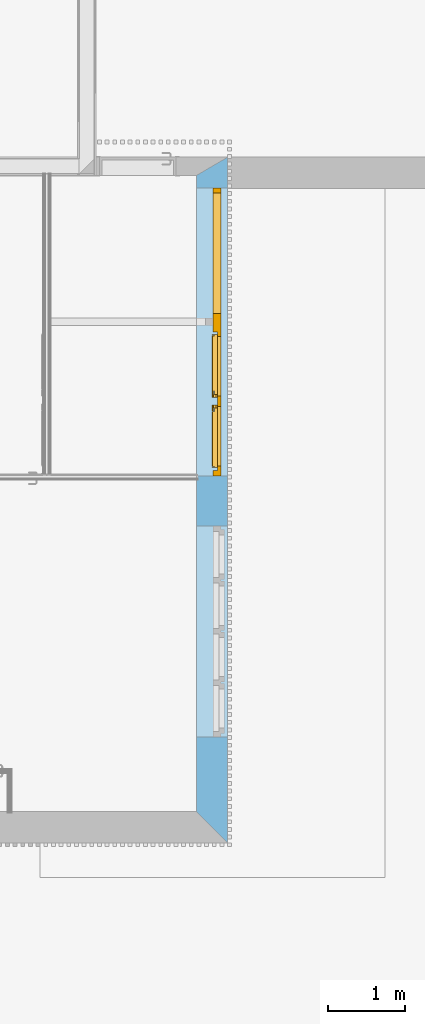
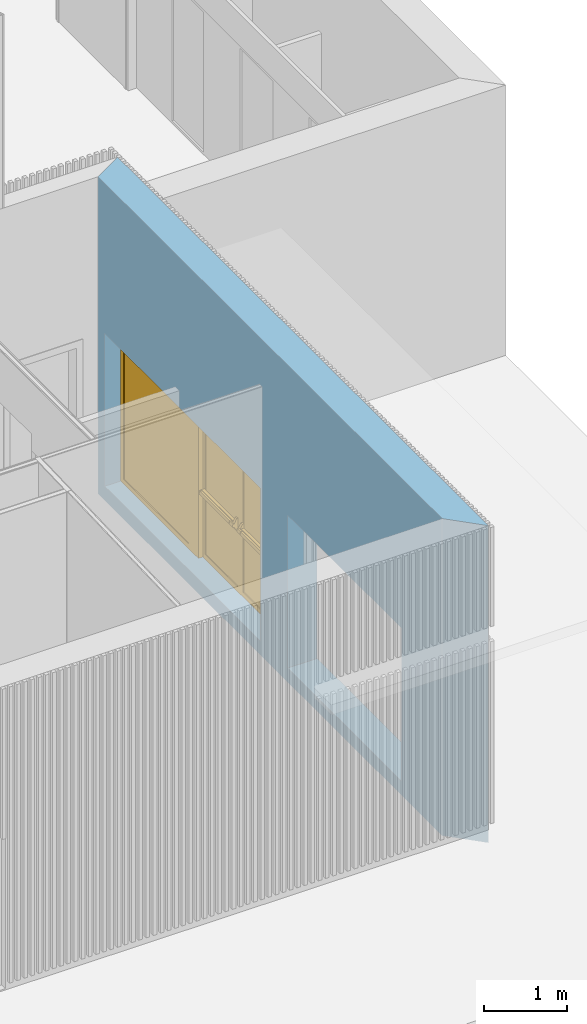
# One storey, part 11 of 34: 1 door, 2 openings, plus 1 element that does not belong to this part.
"""IFC2X3 building model written with IfcOpenShell, lengths in metres."""

from ifc_helpers import new_model, entity, si_unit, converted_unit, derived_unit, money_unit, direction, frame, origin_with_axes, origin_2d_with_axis, place, context, subcontext, project, spatial, polyline, rectangle, outline, extrude, open_shell, faceted_brep, surface_model, material, layer, layer_set, layer_usage, type_object, element, fill, save


model = new_model("IFC2X3")

# Units and contexts
model_context = context("Model", 3, precision=1e-05, world=origin_with_axes(), true_north=direction((0.0, 1.0)))
body_context = subcontext(model_context, "Body", "Model", "MODEL_VIEW")
ifc_project = project(units=[si_unit("LENGTHUNIT", "METRE"), si_unit("AREAUNIT", "SQUARE_METRE"), si_unit("VOLUMEUNIT", "CUBIC_METRE"), converted_unit("PLANEANGLEUNIT", "DEGREE", entity("IfcPlaneAngleMeasure", 0.0174532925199), si_unit("PLANEANGLEUNIT", "RADIAN"), dimensions=[0, 0, 0, 0, 0, 0, 0]), money_unit("CHF"), converted_unit("TIMEUNIT", "Year", entity("IfcTimeMeasure", 31556926.0), si_unit("TIMEUNIT", "SECOND"), dimensions=[0, 0, 1, 0, 0, 0, 0]), si_unit("MASSUNIT", "GRAM", prefix="KILO"), si_unit("THERMODYNAMICTEMPERATUREUNIT", "DEGREE_CELSIUS"), si_unit("LUMINOUSINTENSITYUNIT", "LUMEN"), si_unit("ENERGYUNIT", "JOULE", prefix="MEGA"), derived_unit("THERMALCONDUCTANCEUNIT", [(si_unit("POWERUNIT", "WATT"), 1), (si_unit("LENGTHUNIT", "METRE"), -1), (si_unit("THERMODYNAMICTEMPERATUREUNIT", "KELVIN"), -1)]), derived_unit("SPECIFICHEATCAPACITYUNIT", [(si_unit("ENERGYUNIT", "JOULE"), 1), (si_unit("MASSUNIT", "GRAM", prefix="KILO"), -1), (si_unit("THERMODYNAMICTEMPERATUREUNIT", "KELVIN"), -1)]), derived_unit("MASSDENSITYUNIT", [(si_unit("MASSUNIT", "GRAM", prefix="KILO"), 1), (si_unit("VOLUMEUNIT", "CUBIC_METRE"), -1)])], contexts=[model_context])

# Site, building, storey
site_placement = place(None, origin_with_axes())
site = spatial("IfcSite", under=ifc_project, at=site_placement, Name="Site", CompositionType="ELEMENT")
building_placement = place(site_placement, origin_with_axes())
building = spatial("IfcBuilding", under=site, at=building_placement, Name="Bâtiment", CompositionType="ELEMENT")
storey_placement = place(building_placement, origin_with_axes())
storey = spatial("IfcBuildingStorey", under=building, at=storey_placement, Name="Rez-de-chaussée", CompositionType="ELEMENT", Elevation=0.0)

# Wall, openings, door
ifc_material_1 = material(Name="Finition int - Enduit minéral")
ifc_layer_1 = layer(ifc_material_1, 0.01, ventilated="UNKNOWN")
ifc_material_2 = material(Name="Isolation - Fibres de bois")
ifc_layer_2 = layer(ifc_material_2, 0.18, ventilated="UNKNOWN")
ifc_material_3 = material(Name="Béton armé (Coulé)")
ifc_layer_3 = layer(ifc_material_3, 0.2, ventilated="UNKNOWN")
ifc_material_4 = material(Name="Finition int - Enduit plâtre")
ifc_layer_4 = layer(ifc_material_4, 0.02, ventilated="UNKNOWN")
ifc_layer_set = layer_set([ifc_layer_1, ifc_layer_2, ifc_layer_3, ifc_layer_4], Name="Mur 20cm + iso 18 + enduit")
ifc_layer_usage = layer_usage(ifc_layer_set, "AXIS2", "NEGATIVE", 0.29)
wall_type = type_object("IfcWallType", Name="Mur 20cm + iso 18 + enduit  410", PredefinedType="NOTDEFINED")
wall_placement = place(storey_placement, frame((33.7494697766, 15.07, -0.21), z_axis=(0.0, 0.0, 1.0), x_axis=(0.0, -1.0, 0.0)))
wall = element("IfcWallStandardCase", 1, at=wall_placement, inside=storey, type_object=wall_type, material=ifc_layer_usage, Name="Mur ext 20+18isolant", context=body_context, shape_type="SweptSolid", body=[
    extrude(outline(polyline([(0.19, -0.12), (8.48987433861, -0.12), (8.89987433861, 0.29), (-0.05, 0.29), (0.19, -0.12)])), origin_with_axes(), (0.0, 0.0, 1.0), 4.67),
])
opening_1_placement = place(wall_placement, frame((6.14, 0.0, 0.21), z_axis=(0.0, 0.0, 1.0), x_axis=(1.0, 0.0, 0.0)))
element("IfcOpeningElement", 2, at=opening_1_placement, cuts=wall, Name="FENETRE-005", context=body_context, shape_type="SweptSolid", body=[
    extrude(rectangle(XDim=2.75, YDim=2.25, at=origin_2d_with_axis()), frame((0.0, 0.2, 1.125), z_axis=(0.0, -1.0, 0.0), x_axis=(-1.0, 0.0, 0.0)), (0.0, 0.0, 1.0), 0.73),
    extrude(rectangle(XDim=2.75, YDim=2.25, at=origin_2d_with_axis()), frame((0.0, 0.2, 1.125), z_axis=(0.0, 1.0, 0.0), x_axis=(-1.0, 0.0, 0.0)), (0.0, 0.0, 1.0), 0.5),
])
opening_2_placement = place(wall_placement, frame((2.23000001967, 0.0, 0.21), z_axis=(0.0, 0.0, 1.0), x_axis=(1.0, 0.0, 0.0)))
opening_2 = element("IfcOpeningElement", 3, at=opening_2_placement, cuts=wall, Name="PORTE-PP90 A2 - PF1/2H", context=body_context, shape_type="SweptSolid", body=[
    extrude(rectangle(XDim=3.76, YDim=2.25, at=origin_2d_with_axis()), frame((0.0, 0.2, 1.125), z_axis=(0.0, 1.0, 0.0), x_axis=(1.0, 0.0, 0.0)), (0.0, 0.0, -1.0), 0.73),
    extrude(rectangle(XDim=3.76, YDim=2.25, at=origin_2d_with_axis()), frame((0.0, 0.2, 1.125), z_axis=(0.0, -1.0, 0.0), x_axis=(1.0, 0.0, 0.0)), (0.0, 0.0, -1.0), 0.5),
])
door_style = type_object("IfcDoorStyle", Name="Porte double avec tierce vitrée 26", ConstructionType="NOTDEFINED", OperationType="USERDEFINED", ParameterTakesPrecedence=False, Sizeable=False)
door_placement = place(opening_2_placement, frame((-1.88, 0.0, 0.0), z_axis=(0.0, 0.0, 1.0), x_axis=(1.0, 0.0, 0.0)))
door = element("IfcDoor", 4, at=door_placement, inside=storey, type_object=door_style, Name="PORTE-PP90 A2 - PF1/2H", ObjectType="DOOR", OverallHeight=2.25, OverallWidth=3.76, context=body_context, shape_type="SurfaceModel", body=[
    faceted_brep([(0.0, 0.2, 0.0), (0.07, 0.2, 0.0), (0.07, 0.1, 0.0), (0.0, 0.1, 0.0), (0.0, 0.2, 2.18), (0.07, 0.2, 2.18), (0.07, 0.2, 0.07), (0.07, 0.1, 0.07), (0.07, 0.1, 2.18), (0.0, 0.1, 2.18)], [[[0, 1, 2, 3]], [[0, 4, 5, 6, 1]], [[1, 6, 7, 2]], [[3, 2, 7, 8, 9]], [[4, 0, 3, 9]], [[5, 4, 9, 8]], [[6, 5, 8, 7]]]),
    faceted_brep([(1.88, 0.16, 0.0), (1.88, 0.16, 2.18), (1.88, 0.1, 2.18), (1.88, 0.1, 0.0), (1.868, 0.16, 2.18), (1.868, 0.16, 0.0), (1.868, 0.2, 2.18), (1.64, 0.2, 2.18), (1.64, 0.1, 2.18), (1.64, 0.1, 0.0), (1.64, 0.1, 0.07), (1.64, 0.2, 0.0), (1.868, 0.2, 0.0), (1.64, 0.2, 0.07)], [[[0, 1, 2, 3]], [[4, 1, 0, 5]], [[4, 6, 7, 8, 2, 1]], [[9, 3, 2, 8, 10]], [[5, 0, 3, 9, 11, 12]], [[6, 4, 5, 12]], [[6, 12, 11, 13, 7]], [[13, 10, 8, 7]], [[11, 9, 10, 13]]]),
    faceted_brep([(0.07, 0.2, 0.07), (0.07, 0.2, 0.0), (0.07, 0.1, 0.0), (0.07, 0.1, 0.07), (1.64, 0.2, 0.07), (1.64, 0.2, 0.0), (1.64, 0.1, 0.0), (1.64, 0.1, 0.07)], [[[0, 1, 2, 3]], [[0, 4, 5, 1]], [[1, 5, 6, 2]], [[3, 2, 6, 7]], [[4, 0, 3, 7]], [[5, 4, 7, 6]]]),
    faceted_brep([(3.702, 0.16, 2.18), (3.69, 0.16, 2.18), (3.69, 0.1, 2.18), (3.76, 0.1, 2.18), (3.76, 0.2, 2.18), (3.702, 0.2, 2.18), (3.702, 0.16, 0.0), (3.69, 0.16, 0.0), (3.69, 0.1, 0.0), (3.76, 0.1, 0.0), (3.76, 0.2, 0.0), (3.702, 0.2, 0.0)], [[[0, 1, 2, 3, 4, 5]], [[1, 0, 6, 7]], [[1, 7, 8, 2]], [[3, 2, 8, 9]], [[4, 3, 9, 10]], [[11, 5, 4, 10]], [[0, 5, 11, 6]], [[6, 11, 10, 9, 8, 7]]]),
    faceted_brep([(1.868, 0.2, 2.192), (1.868, 0.2, 2.18), (1.64, 0.2, 2.18), (0.07, 0.2, 2.18), (0.0, 0.2, 2.18), (0.0, 0.2, 2.25), (3.76, 0.2, 2.25), (3.76, 0.2, 2.18), (3.702, 0.2, 2.18), (3.702, 0.2, 2.192), (1.868, 0.16, 2.192), (1.868, 0.16, 2.18), (3.69, 0.16, 2.18), (3.69, 0.1, 2.18), (1.88, 0.1, 2.18), (1.64, 0.1, 2.18), (0.07, 0.1, 2.18), (0.0, 0.1, 2.18), (0.0, 0.1, 2.25), (3.76, 0.1, 2.25), (3.76, 0.1, 2.18), (3.702, 0.16, 2.18), (3.702, 0.16, 2.192)], [[[0, 1, 2, 3, 4, 5, 6, 7, 8, 9]], [[1, 0, 10, 11]], [[11, 12, 13, 14, 15, 2, 1]], [[2, 15, 16, 3]], [[3, 16, 17, 4]], [[4, 17, 18, 5]], [[5, 18, 19, 6]], [[6, 19, 20, 7]], [[21, 8, 7, 20, 13, 12]], [[9, 8, 21, 22]], [[0, 9, 22, 10]], [[21, 12, 11, 10, 22]], [[13, 20, 19, 18, 17, 16, 15, 14]]]),
    faceted_brep([(2.835, 0.14, 0.91), (2.835, 0.16, 0.91), (2.875, 0.16, 0.91), (2.875, 0.14, 0.91), (2.835, 0.105, 0.973), (2.835, 0.088388, 0.973), (2.835, 0.0884480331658, 0.973079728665), (2.835, 0.0836951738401, 0.98619112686), (2.835, 0.0820889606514, 1.00004459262), (2.835, 0.0837157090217, 1.01389566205), (2.835, 0.088488, 1.027), (2.835, 0.088388, 1.027), (2.835, 0.105, 1.027), (2.835, 0.14, 1.09), (2.835, 0.16, 1.09), (2.875, 0.16, 1.09), (2.875, 0.14, 1.09), (2.875, 0.105, 1.027), (2.875, 0.088388, 1.027), (2.875, 0.088488, 1.027), (2.875, 0.0837157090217, 1.01389566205), (2.875, 0.0820889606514, 1.00004459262), (2.875, 0.0836951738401, 0.98619112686), (2.875, 0.0884480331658, 0.973079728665), (2.875, 0.088388, 0.973), (2.875, 0.105, 0.973)], [[[0, 1, 2, 3]], [[0, 4, 5, 6, 7, 8, 9, 10, 11, 12, 13, 14, 1]], [[1, 14, 15, 2]], [[3, 2, 15, 16, 17, 18, 19, 20, 21, 22, 23, 24, 25]], [[4, 0, 3, 25]], [[5, 4, 25, 24]], [[6, 5, 24, 23]], [[7, 6, 23, 22]], [[8, 7, 22, 21]], [[9, 8, 21, 20]], [[10, 9, 20, 19]], [[11, 10, 19, 18]], [[12, 11, 18, 17]], [[13, 12, 17, 16]], [[14, 13, 16, 15]]]),
    faceted_brep([(2.875, 0.088388, 0.973), (2.875, 0.105, 0.973), (2.915, 0.105, 0.973), (2.915, 0.088388, 0.973), (2.875, 0.0836184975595, 0.986126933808), (2.875, 0.0819995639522, 0.999999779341), (2.875, 0.0836183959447, 1.01387263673), (2.875, 0.088388, 1.027), (2.875, 0.088488, 1.027), (2.875, 0.105, 1.027), (2.915, 0.105, 1.027), (2.915, 0.088488, 1.027), (2.915, 0.088388, 1.027), (2.915, 0.0836183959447, 1.01387263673), (2.915, 0.0819995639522, 0.999999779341), (2.915, 0.0836184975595, 0.986126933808)], [[[0, 1, 2, 3]], [[0, 4, 5, 6, 7, 8, 9, 1]], [[1, 9, 10, 2]], [[3, 2, 10, 11, 12, 13, 14, 15]], [[4, 0, 3, 15]], [[5, 4, 15, 14]], [[6, 5, 14, 13]], [[7, 6, 13, 12]], [[8, 7, 12, 11]], [[9, 8, 11, 10]]]),
    faceted_brep([(2.92, 0.12, 0.98), (2.92, 0.12, 1.02), (3.637, 0.12, 1.02), (3.637, 0.12, 0.98), (2.92, 0.105, 0.98), (2.92, 0.105, 0.973), (2.92, 0.088488, 0.973), (2.92, 0.088388, 0.973), (2.92, 0.0836183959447, 0.986127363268), (2.92, 0.0819995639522, 1.00000022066), (2.92, 0.0836184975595, 1.01387306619), (2.92, 0.0883881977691, 1.02700039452), (2.92, 0.105, 1.027), (2.92, 0.105, 1.02), (3.637, 0.105, 1.02), (3.637, 0.105, 1.027), (3.637, 0.0883881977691, 1.02700039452), (3.637, 0.0836184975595, 1.01387306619), (3.637, 0.0819995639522, 1.00000022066), (3.637, 0.0836183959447, 0.986127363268), (3.637, 0.088388, 0.973), (3.637, 0.088488, 0.973), (3.637, 0.105, 0.973), (3.637, 0.105, 0.98)], [[[0, 1, 2, 3]], [[0, 4, 5, 6, 7, 8, 9, 10, 11, 12, 13, 1]], [[1, 13, 14, 2]], [[3, 2, 14, 15, 16, 17, 18, 19, 20, 21, 22, 23]], [[4, 0, 3, 23]], [[5, 4, 23, 22]], [[6, 5, 22, 21]], [[7, 6, 21, 20]], [[8, 7, 20, 19]], [[9, 8, 19, 18]], [[10, 9, 18, 17]], [[11, 10, 17, 16]], [[12, 11, 16, 15]], [[13, 12, 15, 14]]]),
    faceted_brep([(2.875, 0.16, 1.03), (2.875, 0.12, 1.03), (3.642, 0.12, 1.03), (3.642, 0.16, 1.03), (2.875, 0.16, 0.97), (2.875, 0.12, 0.97), (3.642, 0.12, 0.97), (3.642, 0.16, 0.97)], [[[0, 1, 2, 3]], [[0, 4, 5, 1]], [[1, 5, 6, 2]], [[3, 2, 6, 7]], [[4, 0, 3, 7]], [[5, 4, 7, 6]]]),
    faceted_brep([(3.642, 0.12, 0.97), (3.642, 0.16, 0.97), (3.652, 0.16, 0.97), (3.652, 0.12, 0.97), (3.642, 0.105, 0.973), (3.642, 0.0883881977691, 0.972999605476), (3.642, 0.0836184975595, 0.986126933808), (3.642, 0.0819995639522, 0.999999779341), (3.642, 0.0836183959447, 1.01387263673), (3.642, 0.088388, 1.027), (3.642, 0.088488, 1.027), (3.642, 0.105, 1.027), (3.642, 0.12, 1.03), (3.642, 0.16, 1.03), (3.652, 0.16, 1.03), (3.652, 0.12, 1.03), (3.652, 0.105, 1.027), (3.652, 0.088488, 1.027), (3.652, 0.088388, 1.027), (3.652, 0.0836183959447, 1.01387263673), (3.652, 0.0819995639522, 0.999999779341), (3.652, 0.0836184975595, 0.986126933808), (3.652, 0.0883881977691, 0.972999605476), (3.652, 0.105, 0.973)], [[[0, 1, 2, 3]], [[0, 4, 5, 6, 7, 8, 9, 10, 11, 12, 13, 1]], [[1, 13, 14, 2]], [[3, 2, 14, 15, 16, 17, 18, 19, 20, 21, 22, 23]], [[4, 0, 3, 23]], [[5, 4, 23, 22]], [[6, 5, 22, 21]], [[7, 6, 21, 20]], [[8, 7, 20, 19]], [[9, 8, 19, 18]], [[10, 9, 18, 17]], [[11, 10, 17, 16]], [[12, 11, 16, 15]], [[13, 12, 15, 14]]]),
    faceted_brep([(3.702, 0.2, 0.07), (3.702, 0.16, 0.07), (3.632, 0.16, 0.07), (3.632, 0.2, 0.07), (3.702, 0.2, 2.122), (3.702, 0.16, 2.122), (3.632, 0.16, 2.122), (3.632, 0.2, 2.122)], [[[0, 1, 2, 3]], [[4, 5, 1, 0]], [[1, 5, 6, 2]], [[3, 2, 6, 7]], [[0, 3, 7, 4]], [[7, 6, 5, 4]]]),
    faceted_brep([(2.785, 0.2, 0.07), (2.785, 0.16, 0.07), (2.785, 0.16, 2.122), (2.785, 0.2, 2.122), (2.855, 0.2, 0.07), (2.855, 0.16, 0.07), (2.855, 0.16, 2.122), (2.855, 0.2, 2.122)], [[[0, 1, 2, 3]], [[4, 5, 1, 0]], [[1, 5, 6, 2]], [[3, 2, 6, 7]], [[0, 3, 7, 4]], [[7, 6, 5, 4]]]),
    faceted_brep([(3.702, 0.2, 0.0), (3.702, 0.16, 0.0), (2.785, 0.16, 0.0), (2.785, 0.2, 0.0), (3.702, 0.2, 0.07), (3.702, 0.16, 0.07), (3.632, 0.16, 0.07), (2.855, 0.16, 0.07), (2.785, 0.16, 0.07), (2.785, 0.2, 0.07), (2.855, 0.2, 0.07), (3.632, 0.2, 0.07)], [[[0, 1, 2, 3]], [[4, 5, 1, 0]], [[1, 5, 6, 7, 8, 2]], [[3, 2, 8, 9]], [[0, 3, 9, 10, 11, 4]], [[11, 6, 5, 4]], [[10, 7, 6, 11]], [[9, 8, 7, 10]]]),
    faceted_brep([(3.702, 0.2, 2.192), (3.702, 0.16, 2.192), (3.702, 0.16, 2.122), (3.702, 0.2, 2.122), (2.785, 0.2, 2.192), (2.785, 0.16, 2.192), (2.785, 0.16, 2.122), (2.855, 0.16, 2.122), (3.632, 0.16, 2.122), (3.632, 0.2, 2.122), (2.855, 0.2, 2.122), (2.785, 0.2, 2.122)], [[[0, 1, 2, 3]], [[4, 5, 1, 0]], [[1, 5, 6, 7, 8, 2]], [[3, 2, 8, 9]], [[0, 3, 9, 10, 11, 4]], [[11, 6, 5, 4]], [[10, 7, 6, 11]], [[9, 8, 7, 10]]]),
    surface_model("IfcShellBasedSurfaceModel", [(3.632, 0.186, 0.07), (2.855, 0.186, 0.07), (2.855, 0.186, 2.122), (3.632, 0.186, 2.122)], [open_shell([[[0, 1, 2, 3]]])]),
    surface_model("IfcShellBasedSurfaceModel", [(3.632, 0.174, 0.07), (3.632, 0.174, 2.122), (2.855, 0.174, 2.122), (2.855, 0.174, 0.07)], [open_shell([[[0, 1, 2, 3]]])]),
    faceted_brep([(2.735, 0.14, 0.91), (2.695, 0.14, 0.91), (2.695, 0.16, 0.91), (2.735, 0.16, 0.91), (2.735, 0.105, 0.973), (2.695, 0.105, 0.973), (2.695, 0.088388, 0.973), (2.695, 0.0884480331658, 0.973079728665), (2.695, 0.0836951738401, 0.98619112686), (2.695, 0.0820889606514, 1.00004459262), (2.695, 0.0837157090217, 1.01389566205), (2.695, 0.088488, 1.027), (2.695, 0.088388, 1.027), (2.695, 0.105, 1.027), (2.695, 0.14, 1.09), (2.695, 0.16, 1.09), (2.735, 0.16, 1.09), (2.735, 0.14, 1.09), (2.735, 0.105, 1.027), (2.735, 0.088388, 1.027), (2.735, 0.088488, 1.027), (2.735, 0.0837157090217, 1.01389566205), (2.735, 0.0820889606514, 1.00004459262), (2.735, 0.0836951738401, 0.98619112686), (2.735, 0.0884480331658, 0.973079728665), (2.735, 0.088388, 0.973)], [[[0, 1, 2, 3]], [[4, 5, 1, 0]], [[1, 5, 6, 7, 8, 9, 10, 11, 12, 13, 14, 15, 2]], [[3, 2, 15, 16]], [[0, 3, 16, 17, 18, 19, 20, 21, 22, 23, 24, 25, 4]], [[25, 6, 5, 4]], [[24, 7, 6, 25]], [[23, 8, 7, 24]], [[22, 9, 8, 23]], [[21, 10, 9, 22]], [[20, 11, 10, 21]], [[19, 12, 11, 20]], [[18, 13, 12, 19]], [[17, 14, 13, 18]], [[16, 15, 14, 17]]]),
    faceted_brep([(2.695, 0.088388, 0.973), (2.655, 0.088388, 0.973), (2.655, 0.105, 0.973), (2.695, 0.105, 0.973), (2.695, 0.0836184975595, 0.986126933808), (2.655, 0.0836184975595, 0.986126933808), (2.655, 0.0819995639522, 0.999999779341), (2.655, 0.0836183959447, 1.01387263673), (2.655, 0.088388, 1.027), (2.655, 0.088488, 1.027), (2.655, 0.105, 1.027), (2.695, 0.105, 1.027), (2.695, 0.088488, 1.027), (2.695, 0.088388, 1.027), (2.695, 0.0836183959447, 1.01387263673), (2.695, 0.0819995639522, 0.999999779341)], [[[0, 1, 2, 3]], [[4, 5, 1, 0]], [[1, 5, 6, 7, 8, 9, 10, 2]], [[3, 2, 10, 11]], [[0, 3, 11, 12, 13, 14, 15, 4]], [[15, 6, 5, 4]], [[14, 7, 6, 15]], [[13, 8, 7, 14]], [[12, 9, 8, 13]], [[11, 10, 9, 12]]]),
    faceted_brep([(2.65, 0.12, 0.98), (1.933, 0.12, 0.98), (1.933, 0.12, 1.02), (2.65, 0.12, 1.02), (2.65, 0.105, 0.98), (1.933, 0.105, 0.98), (1.933, 0.105, 0.973), (1.933, 0.088488, 0.973), (1.933, 0.088388, 0.973), (1.933, 0.0836183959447, 0.986127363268), (1.933, 0.0819995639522, 1.00000022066), (1.933, 0.0836184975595, 1.01387306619), (1.933, 0.0883881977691, 1.02700039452), (1.933, 0.105, 1.027), (1.933, 0.105, 1.02), (2.65, 0.105, 1.02), (2.65, 0.105, 1.027), (2.65, 0.0883881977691, 1.02700039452), (2.65, 0.0836184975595, 1.01387306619), (2.65, 0.0819995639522, 1.00000022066), (2.65, 0.0836183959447, 0.986127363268), (2.65, 0.088388, 0.973), (2.65, 0.088488, 0.973), (2.65, 0.105, 0.973)], [[[0, 1, 2, 3]], [[4, 5, 1, 0]], [[1, 5, 6, 7, 8, 9, 10, 11, 12, 13, 14, 2]], [[3, 2, 14, 15]], [[0, 3, 15, 16, 17, 18, 19, 20, 21, 22, 23, 4]], [[23, 6, 5, 4]], [[22, 7, 6, 23]], [[21, 8, 7, 22]], [[20, 9, 8, 21]], [[19, 10, 9, 20]], [[18, 11, 10, 19]], [[17, 12, 11, 18]], [[16, 13, 12, 17]], [[15, 14, 13, 16]]]),
    faceted_brep([(2.695, 0.16, 1.03), (1.928, 0.16, 1.03), (1.928, 0.12, 1.03), (2.695, 0.12, 1.03), (2.695, 0.16, 0.97), (1.928, 0.16, 0.97), (1.928, 0.12, 0.97), (2.695, 0.12, 0.97)], [[[0, 1, 2, 3]], [[4, 5, 1, 0]], [[1, 5, 6, 2]], [[3, 2, 6, 7]], [[0, 3, 7, 4]], [[7, 6, 5, 4]]]),
    faceted_brep([(1.928, 0.12, 0.97), (1.918, 0.12, 0.97), (1.918, 0.16, 0.97), (1.928, 0.16, 0.97), (1.928, 0.105, 0.973), (1.918, 0.105, 0.973), (1.918, 0.0883881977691, 0.972999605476), (1.918, 0.0836184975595, 0.986126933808), (1.918, 0.0819995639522, 0.999999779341), (1.918, 0.0836183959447, 1.01387263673), (1.918, 0.088388, 1.027), (1.918, 0.088488, 1.027), (1.918, 0.105, 1.027), (1.918, 0.12, 1.03), (1.918, 0.16, 1.03), (1.928, 0.16, 1.03), (1.928, 0.12, 1.03), (1.928, 0.105, 1.027), (1.928, 0.088488, 1.027), (1.928, 0.088388, 1.027), (1.928, 0.0836183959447, 1.01387263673), (1.928, 0.0819995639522, 0.999999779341), (1.928, 0.0836184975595, 0.986126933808), (1.928, 0.0883881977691, 0.972999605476)], [[[0, 1, 2, 3]], [[4, 5, 1, 0]], [[1, 5, 6, 7, 8, 9, 10, 11, 12, 13, 14, 2]], [[3, 2, 14, 15]], [[0, 3, 15, 16, 17, 18, 19, 20, 21, 22, 23, 4]], [[23, 6, 5, 4]], [[22, 7, 6, 23]], [[21, 8, 7, 22]], [[20, 9, 8, 21]], [[19, 10, 9, 20]], [[18, 11, 10, 19]], [[17, 12, 11, 18]], [[16, 13, 12, 17]], [[15, 14, 13, 16]]]),
    faceted_brep([(1.868, 0.2, 0.07), (1.938, 0.2, 0.07), (1.938, 0.16, 0.07), (1.868, 0.16, 0.07), (1.868, 0.2, 2.122), (1.938, 0.2, 2.122), (1.938, 0.16, 2.122), (1.868, 0.16, 2.122)], [[[0, 1, 2, 3]], [[0, 4, 5, 1]], [[1, 5, 6, 2]], [[3, 2, 6, 7]], [[4, 0, 3, 7]], [[5, 4, 7, 6]]]),
    faceted_brep([(2.785, 0.2, 0.07), (2.785, 0.2, 2.122), (2.785, 0.16, 2.122), (2.785, 0.16, 0.07), (2.715, 0.2, 0.07), (2.715, 0.2, 2.122), (2.715, 0.16, 2.122), (2.715, 0.16, 0.07)], [[[0, 1, 2, 3]], [[0, 4, 5, 1]], [[1, 5, 6, 2]], [[3, 2, 6, 7]], [[4, 0, 3, 7]], [[5, 4, 7, 6]]]),
    faceted_brep([(1.868, 0.2, 0.0), (2.785, 0.2, 0.0), (2.785, 0.16, 0.0), (1.868, 0.16, 0.0), (1.868, 0.2, 0.07), (1.938, 0.2, 0.07), (2.715, 0.2, 0.07), (2.785, 0.2, 0.07), (2.785, 0.16, 0.07), (2.715, 0.16, 0.07), (1.938, 0.16, 0.07), (1.868, 0.16, 0.07)], [[[0, 1, 2, 3]], [[0, 4, 5, 6, 7, 1]], [[1, 7, 8, 2]], [[3, 2, 8, 9, 10, 11]], [[4, 0, 3, 11]], [[5, 4, 11, 10]], [[6, 5, 10, 9]], [[7, 6, 9, 8]]]),
    faceted_brep([(1.868, 0.2, 2.192), (1.868, 0.2, 2.122), (1.868, 0.16, 2.122), (1.868, 0.16, 2.192), (2.785, 0.2, 2.192), (2.785, 0.2, 2.122), (2.715, 0.2, 2.122), (1.938, 0.2, 2.122), (1.938, 0.16, 2.122), (2.715, 0.16, 2.122), (2.785, 0.16, 2.122), (2.785, 0.16, 2.192)], [[[0, 1, 2, 3]], [[0, 4, 5, 6, 7, 1]], [[1, 7, 8, 2]], [[3, 2, 8, 9, 10, 11]], [[4, 0, 3, 11]], [[5, 4, 11, 10]], [[6, 5, 10, 9]], [[7, 6, 9, 8]]]),
    surface_model("IfcShellBasedSurfaceModel", [(1.938, 0.186, 0.07), (1.938, 0.186, 2.122), (2.715, 0.186, 2.122), (2.715, 0.186, 0.07)], [open_shell([[[0, 1, 2, 3]]])]),
    surface_model("IfcShellBasedSurfaceModel", [(1.938, 0.174, 0.07), (2.715, 0.174, 0.07), (2.715, 0.174, 2.122), (1.938, 0.174, 2.122)], [open_shell([[[0, 1, 2, 3]]])]),
    surface_model("IfcShellBasedSurfaceModel", [(0.07, 0.124, 0.07), (0.07, 0.124, 2.18), (1.64, 0.124, 2.18), (1.64, 0.124, 0.07)], [open_shell([[[0, 1, 2, 3]]])]),
    surface_model("IfcShellBasedSurfaceModel", [(0.07, 0.112, 0.07), (1.64, 0.112, 0.07), (1.64, 0.112, 2.18), (0.07, 0.112, 2.18)], [open_shell([[[0, 1, 2, 3]]])]),
])
fill(opening_2, door)

save(model, "model.ifc")
